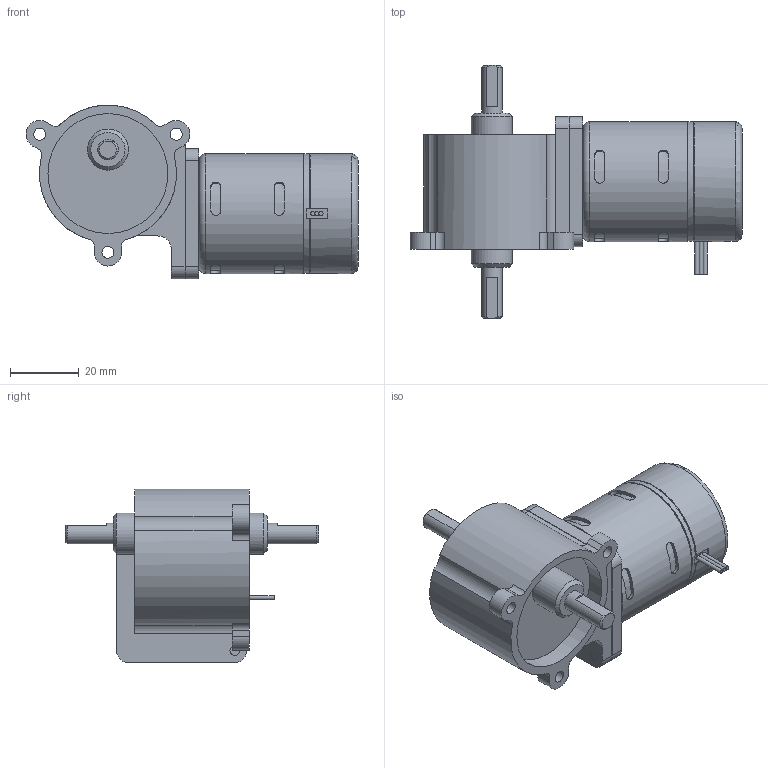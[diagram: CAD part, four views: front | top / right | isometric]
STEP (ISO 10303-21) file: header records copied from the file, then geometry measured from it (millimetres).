
FILE_DESCRIPTION((''),'2;1');
FILE_NAME('C:\Documents and Settings\SSEGAWA\デスクトップ\TP-3546B-KWR.STP','2013-07-30T23:04:18',('SSEGAWA'),(''),'Autodesk Inventor 2010','Autodesk Inventor 2010','');
FILE_SCHEMA(('CONFIG_CONTROL_DESIGN'));
Length unit declared in the file: millimetre
Products named in the file (1): tp_3546bd_kwr_Shrinkwrap_1
Bounding box: 96.92 x 73.9 x 50.63 mm (x, y, z)
Volume: 96843.9 mm3; surface area: 17603.2 mm2
Topology: 1 solids, 6 shells, 166 faces, 397 edges, 260 vertices
Faces by surface type: plane 72, cylinder 68, bspline 19, cone 5, torus 2
Full cylindrical faces by diameter (mm): 1.2 x2, 2.5 x1, 6 x2, 10 x1, 12 x2, 34.6 x1, 35 x4
Entity records: 5437 total; most frequent: CARTESIAN_POINT 1594, DIRECTION 769, ORIENTED_EDGE 698, EDGE_CURVE 349, AXIS2_PLACEMENT_3D 308, VERTEX_POINT 243, EDGE_LOOP 224, STYLED_ITEM 167
